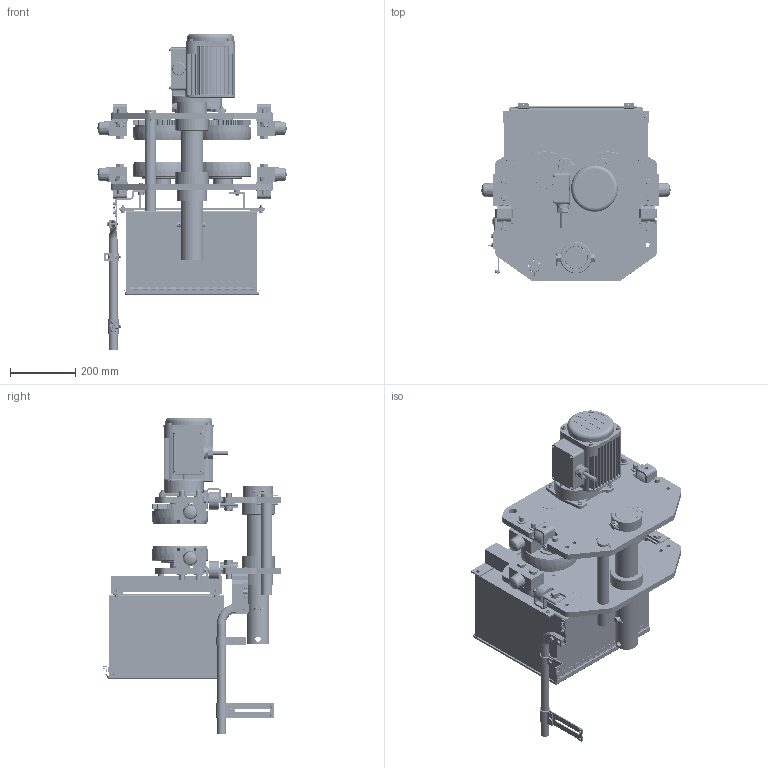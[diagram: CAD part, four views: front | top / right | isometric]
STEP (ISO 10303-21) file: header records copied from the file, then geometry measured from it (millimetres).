
FILE_DESCRIPTION (( 'STEP AP214' ), '1' );
FILE_NAME ('MR2100LD.STEP', '2026-08-10T17:21:36', ( '' ), ( '' ), 'SwSTEP 2.0', 'SolidWorks 2026', '' );
FILE_SCHEMA (( 'AUTOMOTIVE_DESIGN' ));
Length unit declared in the file: inch
Products named in the file (73): 9093329_9093329; 9006732; MR1DS1481; 9012709_Rectangular section spring washer BS 4464 - 16 (Type B); M6SE100S9113; 9012711_9012711; 9005205_9005205; 70135-15; ECP5924AA1; MS104075; M6SE100S9102; MS554010; MS517010; MR1GS1211_Reversed; 6309Z Bearing; 9004505_9004505; MR1DS1491; MR1IS5201; MS006050; MR1IS9634; MR1DS9481; MR1GS1211 ATTACHMENT; 70136-04; MR1DS1301; 9047145_9047145; E6L614010S; MR1GS9324; MR1DS1493; MS1101075; E6S010075_E6S010075; MR1IS9201; ECP5924AC1; J1BG11002828_J1BG11002828; 70135-08; ECP5924AB1; 90912134_90912134; 16-6 (MR2); MR1GS1211 BODY; MS161100; M6SE100S9114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
Assembly tree (185 placements, depth 4):
  MR2100LD
    MR1IS5201
      MR1IS9201
      MR1IS9203  x2
      M6SE100S9113
    MR1IS5202
      MR1IS9202
      MR1IS9203  x2
      M6SE100S9114
    MR1GS1211_Reversed  x2
      MR1GS1211 BODY
      MR1GS1211 ATTACHMENT
    MR1GS1211  x2
      MR1GS1211 BODY
      MR1GS1211 ATTACHMENT
    9012715_9012715  x11
    90933116_90933116  x4
    9093424_9093424  x16
    MS104075  x4
    MS1101075  x2
      M6SE100S9101
      6309Z Bearing
      J1SR000-00100_9047145
    MS1102075  x2
      M6SE100S9102
      6309Z Bearing
      J1SR000-00100_9047145
    9047145_9047145  x4
    J1BG11002828_J1BG11002828  x2
    MR1DS1491
      MR1DS9491
      MR1DS9492
      MR1DS9501
      MR1DS1493
        MR1DS9493
        9012711_9012711
        M6F554010  x2
        MR1DS9496
        9093424_9093424
        9093329_9093329
      MR1DS1481
        MR1DS9481
        E6L614010S
        E6F151003  x2
      9012711_9012711  x3
      9093329_9093329  x3
      9093424_9093424
    6077802
      MR1GS9311
      MR1GS9324
      MR1GS9325
      MS554010  x4
      MR1DS1301
      90912134_90912134  x4
    9012513  x4
    9012709_Rectangular section spring washer BS 4464 - 16 (Type B)  x12
    9091252_B18.3.1M - 6 x 1.0 x 30 Hex SHCS -- 30CHX  x4
    MR1IS9634  x4
    MS006050  x4
    MR1FS9631  x4
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Bounding box: 582 x 550.21 x 973.91 mm (x, y, z)
Volume: 21375848.9 mm3; surface area: 4626076.1 mm2
Topology: 213 solids, 229 shells, 8434 faces, 21438 edges, 13734 vertices
Faces by surface type: plane 3537, cylinder 2121, bspline 1305, cone 1156, torus 299, sphere 16
Entity records: 230374 total; most frequent: CARTESIAN_POINT 103328, ORIENTED_EDGE 22428, DIRECTION 18884, EDGE_CURVE 11216, VERTEX_POINT 7247, AXIS2_PLACEMENT_3D 6693, VECTOR 5498, LINE 5498
